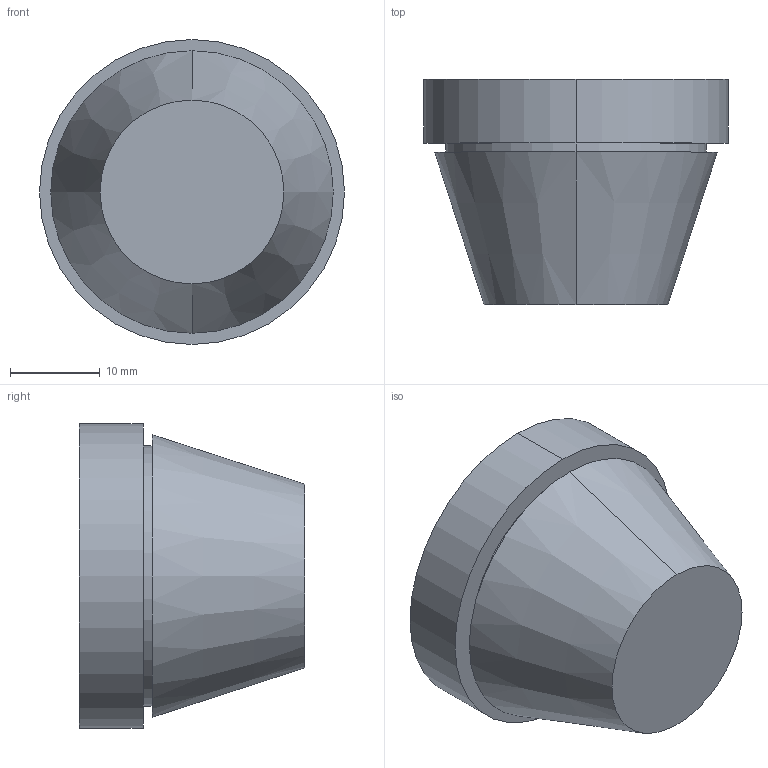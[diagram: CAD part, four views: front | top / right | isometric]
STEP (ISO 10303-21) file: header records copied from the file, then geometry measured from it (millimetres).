
FILE_DESCRIPTION (( 'STEP AP203' ), '1' );
FILE_NAME ('100297.STEP', '2012-10-29T10:40:22', ( 'Joni' ), ( 'Hewlett-Packard Company' ), 'SwSTEP 2.0', 'SolidWorks 2012', '' );
FILE_SCHEMA (( 'CONFIG_CONTROL_DESIGN' ));
Length unit declared in the file: millimetre
Products named in the file (1): 100297
Bounding box: 34 x 25.1 x 34 mm (x, y, z)
Volume: 16267.2 mm3; surface area: 3913.1 mm2
Topology: 1 solids, 1 shells, 10 faces, 18 edges, 12 vertices
Faces by surface type: cylinder 4, plane 4, cone 2
Entity records: 331 total; most frequent: DIRECTION 52, CARTESIAN_POINT 41, ORIENTED_EDGE 36, AXIS2_PLACEMENT_3D 23, EDGE_CURVE 18, CIRCLE 12, VERTEX_POINT 12, EDGE_LOOP 12
